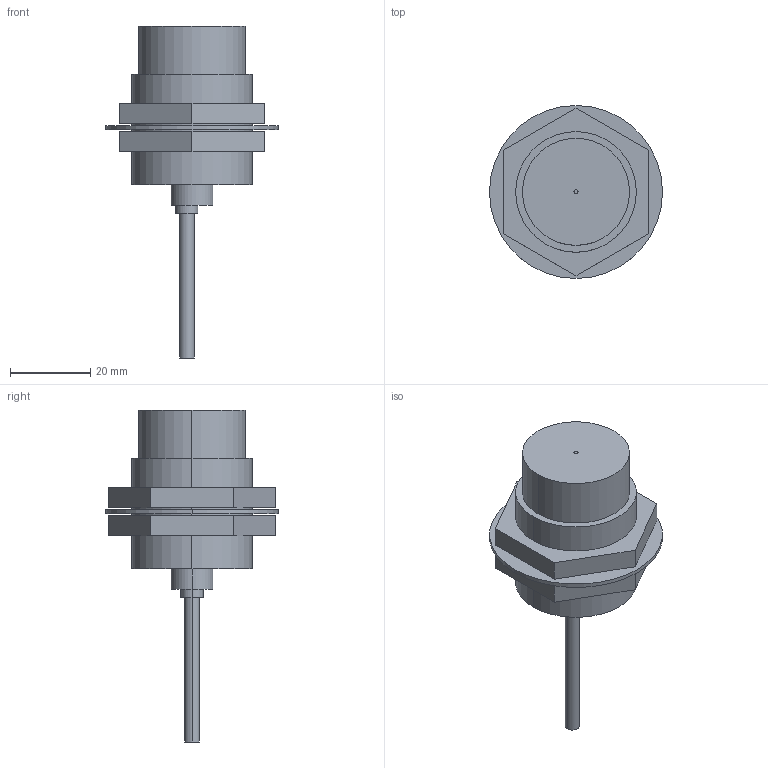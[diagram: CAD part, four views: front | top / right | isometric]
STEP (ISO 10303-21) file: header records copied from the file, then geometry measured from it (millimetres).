
FILE_DESCRIPTION (( 'STEP AP203' ), '1' );
FILE_NAME ('GX-30MLU.STEP', '2005-11-09T07:34:17', ( '' ), ( '' ), 'SwSTEP 2.0', 'SolidWorks 2004073', '' );
FILE_SCHEMA (( 'CONFIG_CONTROL_DESIGN' ));
Length unit declared in the file: millimetre
Products named in the file (1): GX-30MLU
Bounding box: 43 x 43 x 82.5 mm (x, y, z)
Volume: 31846 mm3; surface area: 11186.3 mm2
Topology: 4 solids, 4 shells, 54 faces, 114 edges, 76 vertices
Faces by surface type: plane 28, cylinder 26
Entity records: 1553 total; most frequent: DIRECTION 276, CARTESIAN_POINT 245, ORIENTED_EDGE 228, EDGE_CURVE 114, AXIS2_PLACEMENT_3D 107, VERTEX_POINT 76, EDGE_LOOP 68, VECTOR 62
